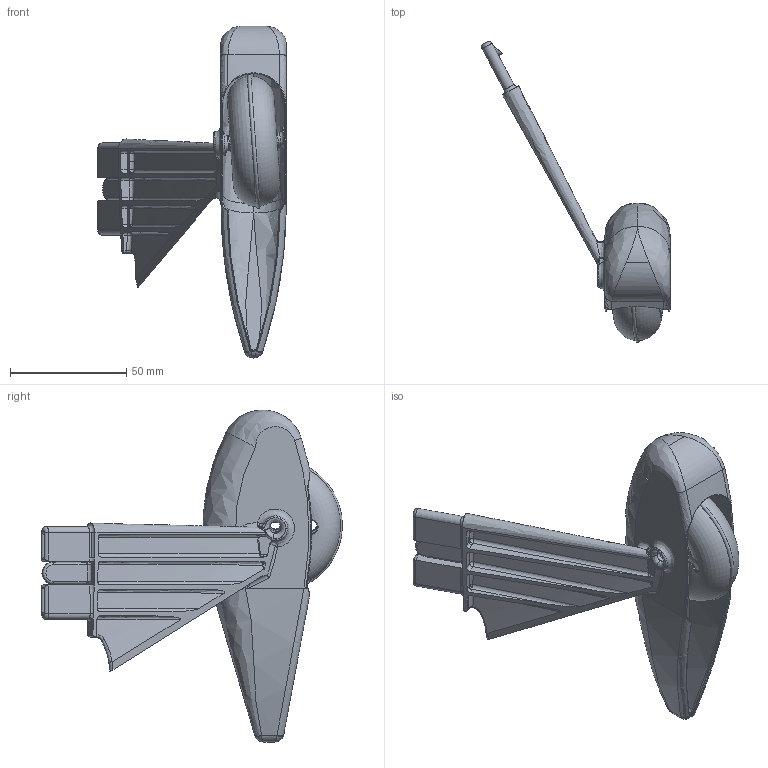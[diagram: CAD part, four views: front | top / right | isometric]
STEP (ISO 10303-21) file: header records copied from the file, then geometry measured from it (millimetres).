
FILE_DESCRIPTION (( 'STEP AP203' ), '1' );
FILE_NAME ('06-12-037-00 (LG).STEP', '2019-02-25T09:11:50', ( '' ), ( '' ), 'SwSTEP 2.0', 'SolidWorks 2014', '' );
FILE_SCHEMA (( 'CONFIG_CONTROL_DESIGN' ));
Length unit declared in the file: millimetre
Products named in the file (1): 06-12-037-00 (LG)
Bounding box: 80.87 x 129.18 x 142.5 mm (x, y, z)
Volume: 27059.1 mm3; surface area: 52029.6 mm2
Topology: 2 solids, 3 shells, 661 faces, 1641 edges, 949 vertices
Faces by surface type: bspline 304, cylinder 159, plane 95, torus 93, sphere 10
Entity records: 45413 total; most frequent: CARTESIAN_POINT 32212, ORIENTED_EDGE 3212, DIRECTION 2144, EDGE_CURVE 1606, VERTEX_POINT 935, AXIS2_PLACEMENT_3D 914, B_SPLINE_CURVE_WITH_KNOTS 706, EDGE_LOOP 673
